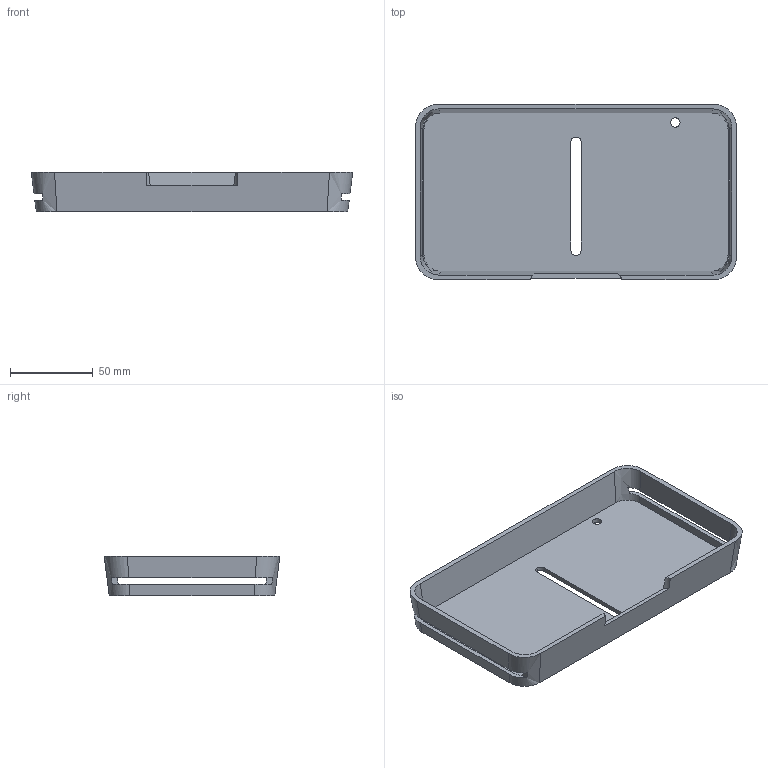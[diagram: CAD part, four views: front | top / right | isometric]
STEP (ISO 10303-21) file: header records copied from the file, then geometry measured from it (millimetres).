
FILE_DESCRIPTION(('Open CASCADE Model'),'2;1');
FILE_NAME('Open CASCADE Shape Model','2026-09-13T15:24:12',('Author'),( 'Open CASCADE'),'Open CASCADE STEP processor 7.9','build123d', 'Unknown');
FILE_SCHEMA(('AUTOMOTIVE_DESIGN { 1 0 10303 214 1 1 1 1 }'));
Length unit declared in the file: millimetre
Products named in the file (2): =>[0:1:1:2]; COMPOUND
Assembly tree (1 placements, depth 2):
  =>[0:1:1:2]
    COMPOUND
Bounding box: 194 x 106 x 24 mm (x, y, z)
Volume: 76629.2 mm3; surface area: 61472.3 mm2
Topology: 1 solids, 1 shells, 43 faces, 135 edges, 90 vertices
Faces by surface type: bspline 20, plane 16, cylinder 5, extrusion 2
Full cylindrical faces by diameter (mm): 5.6 x1
Entity records: 4994 total; most frequent: CARTESIAN_POINT 2701, DIRECTION 281, ORIENTED_EDGE 270, PCURVE 270, DEFINITIONAL_REPRESENTATION 270, B_SPLINE_CURVE_WITH_KNOTS 195, VECTOR 164, LINE 162
